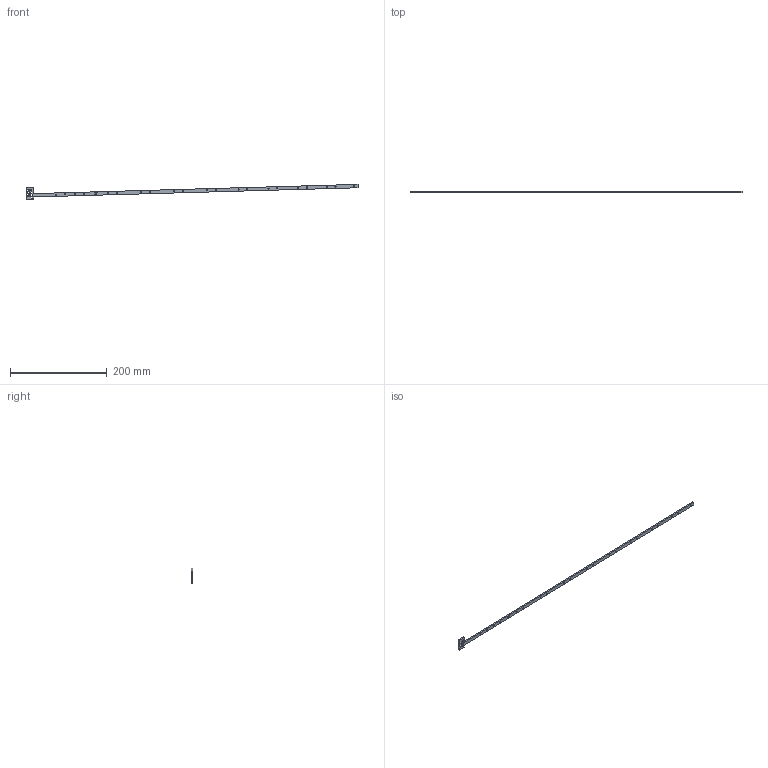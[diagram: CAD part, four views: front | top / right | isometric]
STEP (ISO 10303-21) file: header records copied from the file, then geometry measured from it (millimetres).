
FILE_DESCRIPTION((''),'2;1');
FILE_NAME('0000203977','2024-02-23T16:54:32',('Wyndorps'),(''),'CREO PARAMETRIC BY PTC INC, 2022484','CREO PARAMETRIC BY PTC INC, 2022484','');
FILE_SCHEMA(('CONFIG_CONTROL_DESIGN'));
Length unit declared in the file: millimetre
Products named in the file (1): 0000203977
Bounding box: 685.81 x 3 x 31.43 mm (x, y, z)
Volume: 14613.4 mm3; surface area: 14897.9 mm2
Topology: 1 solids, 1 shells, 100 faces, 294 edges, 196 vertices
Faces by surface type: plane 58, cylinder 42
Entity records: 3504 total; most frequent: CARTESIAN_POINT 590, ORIENTED_EDGE 588, DIRECTION 578, EDGE_CURVE 294, VECTOR 210, LINE 210, VERTEX_POINT 196, AXIS2_PLACEMENT_3D 184
